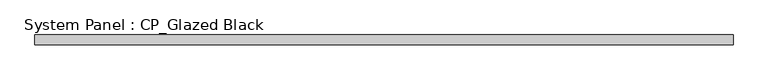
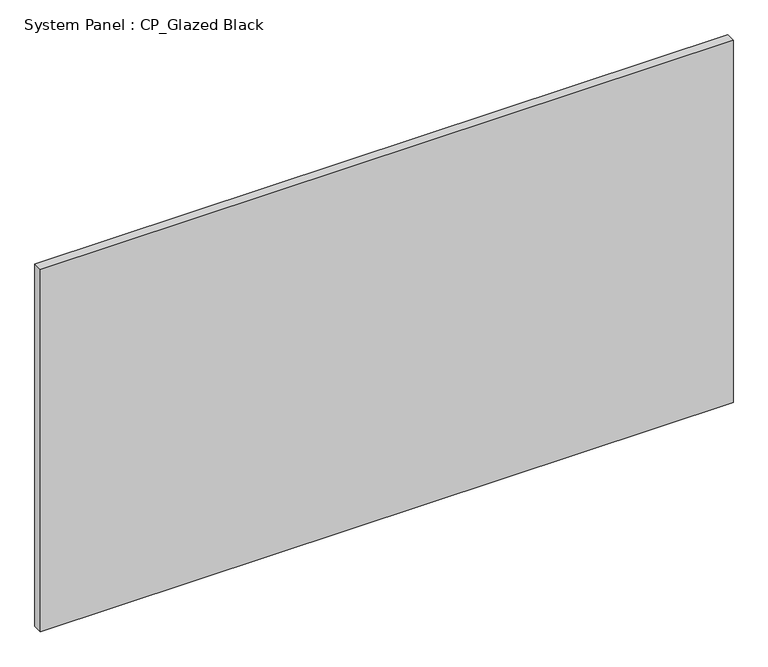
"""IFC4 building model written with IfcOpenShell, lengths in millimetres: plate geometry, System Panel : CP_Glazed Black."""

from ifc_helpers import new_model, si_unit, origin, origin_with_axes, place, context, project, spatial, polyline, outline, extrude, source, transform, mapped, element, save


def system_panel_cp_glazed_black_6bdd312e(model_context):
    return source(origin(), model_context, "Body", "SweptSolid", [
        extrude(outline(polyline([(914.4, 19.05), (-914.4, 19.05), (-914.4, 44.45), (914.4, 44.45), (914.4, 19.05)])), origin_with_axes(), (0.0, 0.0, 1.0), 1012.03125),
    ])


if __name__ == "__main__":
    model = new_model("IFC4")
    model_context = context("Model", 3, world=origin())
    ifc_project = project(units=[si_unit("LENGTHUNIT", "METRE", prefix="MILLI")], contexts=[model_context])
    site = spatial("IfcSite", under=ifc_project)
    building = spatial("IfcBuilding", under=site)
    placement = place(None, origin())
    system_panel_cp_glazed_black_shape = system_panel_cp_glazed_black_6bdd312e(model_context)
    element("IfcPlate", 1, ObjectType="System Panel : CP_Glazed Black", at=placement, inside=building, context=model_context, shape_type="MappedRepresentation", body=[
        mapped(system_panel_cp_glazed_black_shape, transform((0.0, 0.0, 0.0), x_axis=(1.0, 0.0, 0.0), y_axis=(0.0, 1.0, 0.0), z_axis=(0.0, 0.0, 1.0))),
    ])
    save(model, "model.ifc")
